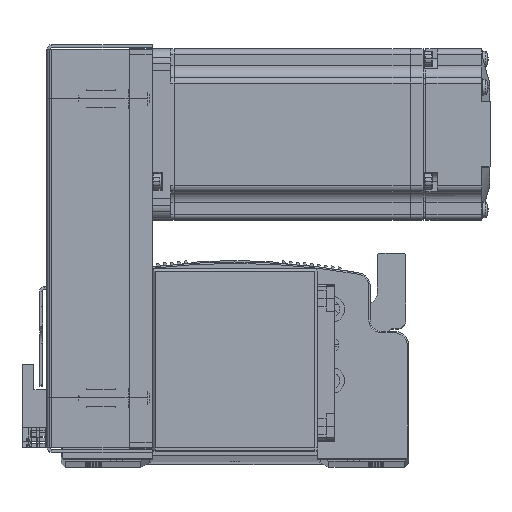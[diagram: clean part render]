
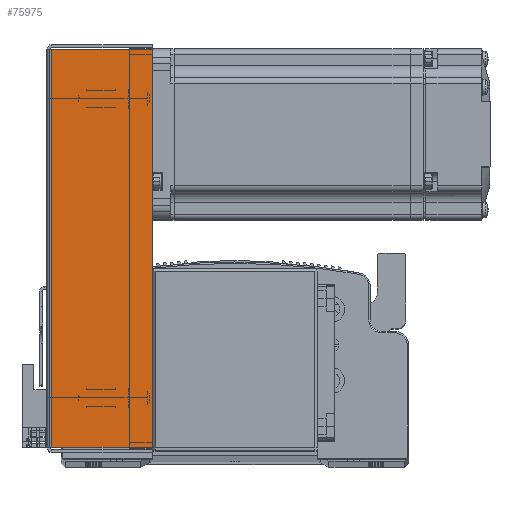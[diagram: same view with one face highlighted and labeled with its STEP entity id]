
A CAD part, top view. The second image highlights one B-rep face of the part: STEP entity #75975.
In plain terms, the highlighted planar face has unit normal (0, 0, 1) as drawn and (0, 0, -1) by its records, which use the part's own axes.
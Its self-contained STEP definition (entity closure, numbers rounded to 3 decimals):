
#16056 = PLANE ( 'NONE',  #23485 ) ;
#16074 = DIRECTION ( 'NONE',  ( 0., 0., 1. ) ) ;
#16088 = DIRECTION ( 'NONE',  ( 0., -1., 0. ) ) ;
#16129 = CARTESIAN_POINT ( 'NONE',  ( 0., 0., -33.5 ) ) ;
#23485 = AXIS2_PLACEMENT_3D ( 'NONE', #16129, #16074, #16088 ) ;
#27188 = LINE ( 'NONE', #28619, #27211 ) ;
#27211 = VECTOR ( 'NONE', #28616, 1000. ) ;
#27218 = VECTOR ( 'NONE', #28648, 1000. ) ;
#27225 = LINE ( 'NONE', #28640, #27218 ) ;
#27240 = VECTOR ( 'NONE', #28792, 1000. ) ;
#27283 = LINE ( 'NONE', #28795, #27291 ) ;
#27290 = LINE ( 'NONE', #28805, #27240 ) ;
#27291 = VECTOR ( 'NONE', #28758, 1000. ) ;
#28616 = DIRECTION ( 'NONE',  ( 1., 0., 0. ) ) ;
#28619 = CARTESIAN_POINT ( 'NONE',  ( 0., 36., -33.5 ) ) ;
#28640 = CARTESIAN_POINT ( 'NONE',  ( 71.5, 0.737, -33.5 ) ) ;
#28648 = DIRECTION ( 'NONE',  ( 1., 0., 0. ) ) ;
#28758 = DIRECTION ( 'NONE',  ( 0., 1., 0. ) ) ;
#28792 = DIRECTION ( 'NONE',  ( 0., 1., 0. ) ) ;
#28795 = CARTESIAN_POINT ( 'NONE',  ( -69.793, 0., -33.5 ) ) ;
#28805 = CARTESIAN_POINT ( 'NONE',  ( 69.793, 0., -33.5 ) ) ;
#33663 = CARTESIAN_POINT ( 'NONE',  ( 69.793, 36., -33.5 ) ) ;
#33664 = CARTESIAN_POINT ( 'NONE',  ( -69.793, 36., -33.5 ) ) ;
#36271 = FACE_OUTER_BOUND ( 'NONE', #73658, .T. ) ;
#37296 = VERTEX_POINT ( 'NONE', #33663 ) ;
#37298 = VERTEX_POINT ( 'NONE', #33664 ) ;
#45617 = VERTEX_POINT ( 'NONE', #47457 ) ;
#45634 = VERTEX_POINT ( 'NONE', #47416 ) ;
#47416 = CARTESIAN_POINT ( 'NONE',  ( 69.793, 0.737, -33.5 ) ) ;
#47457 = CARTESIAN_POINT ( 'NONE',  ( -69.793, 0.737, -33.5 ) ) ;
#59734 = EDGE_CURVE ( 'NONE', #45617, #45634, #27225, .T. ) ;
#59737 = EDGE_CURVE ( 'NONE', #37298, #37296, #27188, .T. ) ;
#59780 = EDGE_CURVE ( 'NONE', #45634, #37296, #27290, .T. ) ;
#59784 = EDGE_CURVE ( 'NONE', #45617, #37298, #27283, .T. ) ;
#73658 = EDGE_LOOP ( 'NONE', ( #85152, #85271, #85217, #85262 ) ) ;
#75975 = ADVANCED_FACE ( 'NONE', ( #36271 ), #16056, .F. ) ;
#85152 = ORIENTED_EDGE ( 'NONE', *, *, #59734, .F. ) ;
#85217 = ORIENTED_EDGE ( 'NONE', *, *, #59737, .T. ) ;
#85262 = ORIENTED_EDGE ( 'NONE', *, *, #59780, .F. ) ;
#85271 = ORIENTED_EDGE ( 'NONE', *, *, #59784, .T. ) ;
